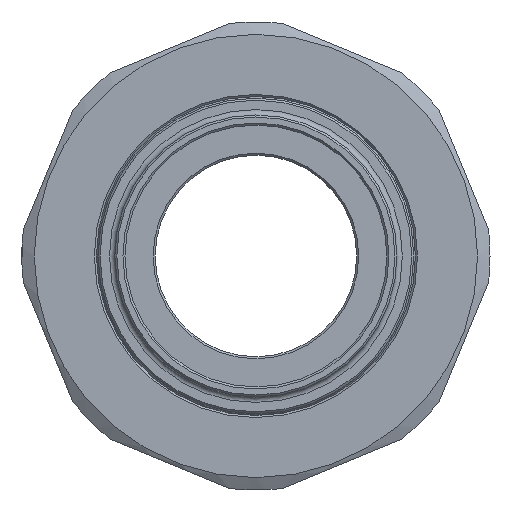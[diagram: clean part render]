
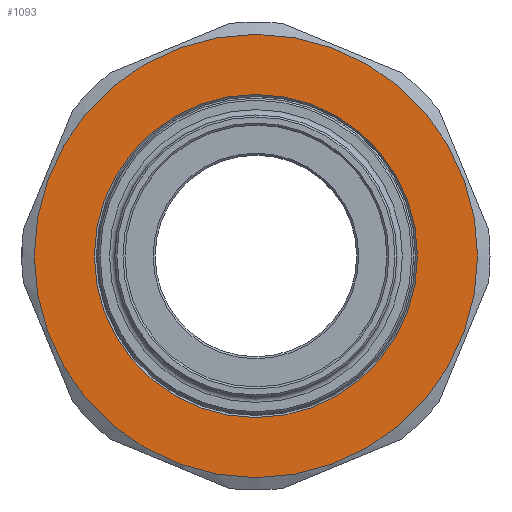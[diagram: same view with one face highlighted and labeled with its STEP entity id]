
A CAD part, left-side view. The second image highlights one B-rep face of the part: STEP entity #1093.
In plain terms, the highlighted planar face has unit normal (-1, 0, 0).
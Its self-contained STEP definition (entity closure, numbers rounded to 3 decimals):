
#62=FACE_BOUND('',#186,.T.);
#73=PLANE('',#1239);
#117=FACE_OUTER_BOUND('',#185,.T.);
#185=EDGE_LOOP('',(#753));
#186=EDGE_LOOP('',(#754));
#368=CIRCLE('',#1238,24.05);
#369=CIRCLE('',#1240,33.);
#463=VERTEX_POINT('',#1805);
#464=VERTEX_POINT('',#1809);
#576=EDGE_CURVE('',#463,#463,#368,.T.);
#578=EDGE_CURVE('',#464,#464,#369,.T.);
#753=ORIENTED_EDGE('',*,*,#578,.T.);
#754=ORIENTED_EDGE('',*,*,#576,.F.);
#1093=ADVANCED_FACE('',(#117,#62),#73,.T.);
#1238=AXIS2_PLACEMENT_3D('',#1806,#1421,#1422);
#1239=AXIS2_PLACEMENT_3D('',#1808,#1424,#1425);
#1240=AXIS2_PLACEMENT_3D('',#1810,#1426,#1427);
#1421=DIRECTION('center_axis',(-1.,0.,0.));
#1422=DIRECTION('ref_axis',(0.,1.,0.));
#1424=DIRECTION('center_axis',(-1.,0.,0.));
#1425=DIRECTION('ref_axis',(0.,0.,1.));
#1426=DIRECTION('center_axis',(-1.,0.,0.));
#1427=DIRECTION('ref_axis',(0.,1.,0.));
#1805=CARTESIAN_POINT('',(-23.,-24.05,0.));
#1806=CARTESIAN_POINT('Origin',(-23.,0.,0.));
#1808=CARTESIAN_POINT('Origin',(-23.,0.,0.));
#1809=CARTESIAN_POINT('',(-23.,-33.,0.));
#1810=CARTESIAN_POINT('Origin',(-23.,0.,0.));
